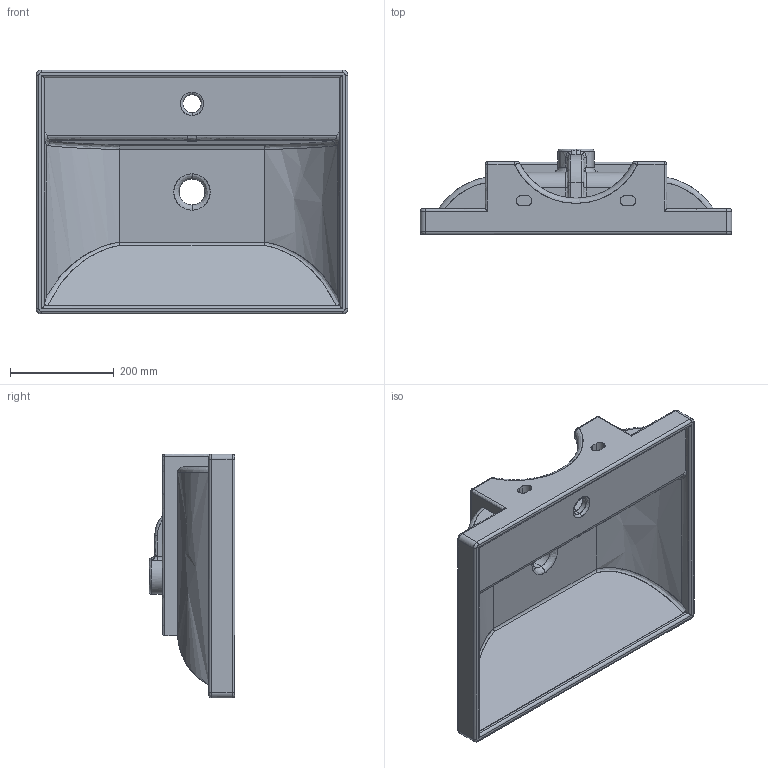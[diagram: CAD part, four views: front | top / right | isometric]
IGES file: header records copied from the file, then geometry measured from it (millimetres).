
Start section: Comment
Global section: file name: ML 60x47.igs; native system:  By UGS Corp.; preprocessor: XPlus GENERIC/IGES 3.0; author: Author; organization: Title; date: 20110701.144558; units: millimetre
Bounding box: 600 x 165 x 470 mm (x, y, z)
Surface area: 945761.4 mm2 (no closed solid volume)
Topology: 0 solids, 0 shells, 156 faces, 776 edges, 772 vertices
Faces by surface type: bspline 156
